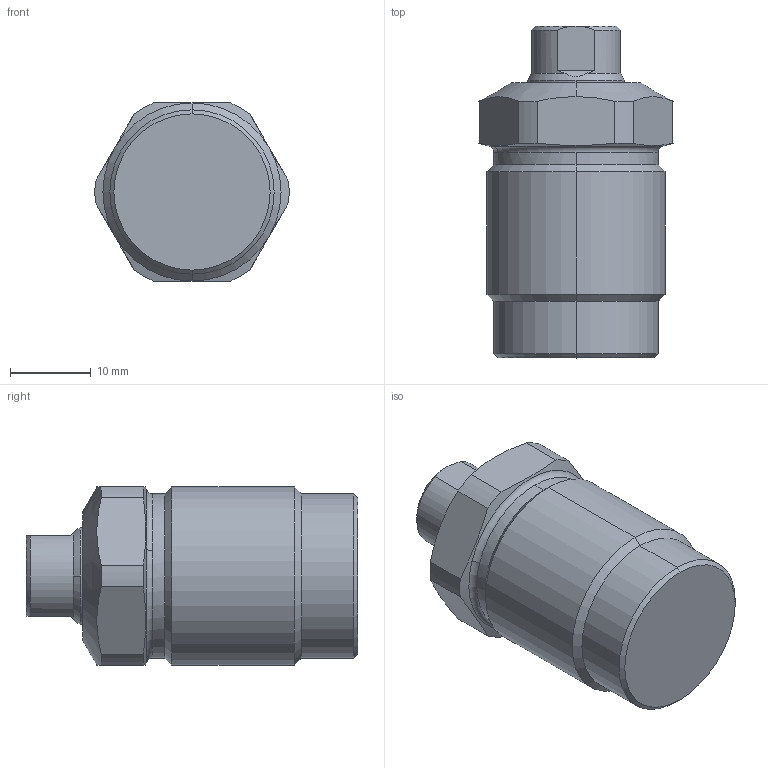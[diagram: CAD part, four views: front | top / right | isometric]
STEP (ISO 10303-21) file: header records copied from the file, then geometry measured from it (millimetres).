
FILE_DESCRIPTION((' '),'2;1');
FILE_NAME( 'TGM03-10.X_T.stp', '2024-08-27T13:43:49', (' '), ('--- Datakit www.datakit.com---'), ' Datakit CrossCadWare V2024.1 Dec 21 2023', 'Mastercam 2025', ' ');
FILE_SCHEMA(('AUTOMOTIVE_DESIGN { 1 0 10303 214 1 1 1 1 }'));
Length unit declared in the file: millimetre
Products named in the file (1): TGM03-10
Bounding box: 23.98 x 41 x 22 mm (x, y, z)
Volume: 12790.7 mm3; surface area: 4397.4 mm2
Topology: 2 solids, 2 shells, 58 faces, 140 edges, 87 vertices
Faces by surface type: cylinder 22, cone 18, plane 16, torus 2
Entity records: 1794 total; most frequent: CARTESIAN_POINT 404, DIRECTION 306, ORIENTED_EDGE 276, EDGE_CURVE 138, AXIS2_PLACEMENT_3D 129, VERTEX_POINT 87, CIRCLE 64, EDGE_LOOP 61
